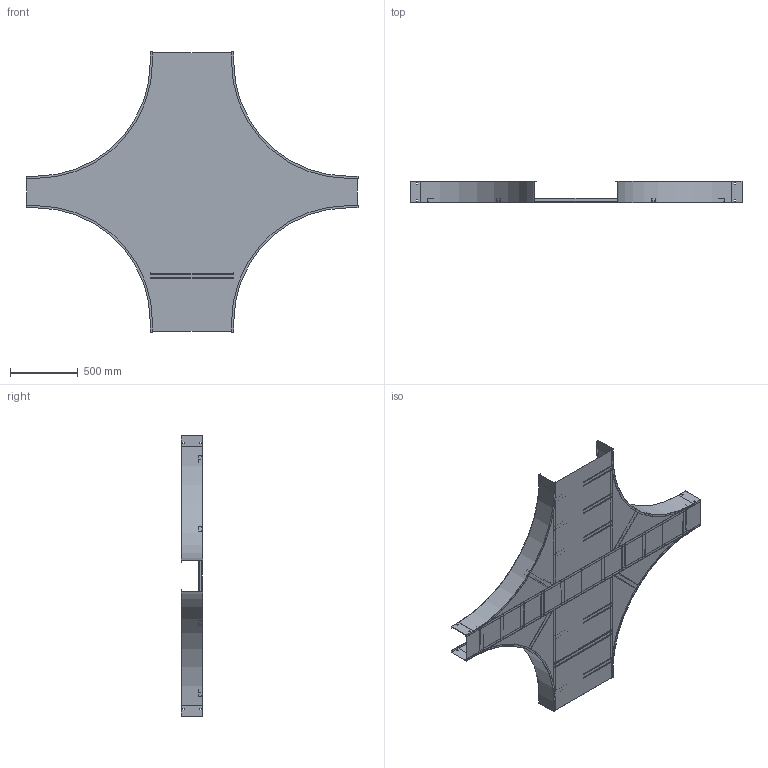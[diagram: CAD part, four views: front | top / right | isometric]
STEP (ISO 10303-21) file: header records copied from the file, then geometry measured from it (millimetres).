
FILE_DESCRIPTION((''),'2;1');
FILE_NAME('AUF60924SEX36_ASM','2010-02-01T',('erouzier'),(''),'PRO/ENGINEER BY PARAMETRIC TECHNOLOGY CORPORATION, 2008510','PRO/ENGINEER BY PARAMETRIC TECHNOLOGY CORPORATION, 2008510','');
FILE_SCHEMA(('CONFIG_CONTROL_DESIGN'));
Length unit declared in the file: inch
Products named in the file (25): CDS001321-6-90-33-I; CDS002159L9_AF11; CDS002159L9_AF12; CDS002159L9_AF13; CDS002159L9_AF14; CDS002159L9_AF20; CDS002159L9_AF15; CDS002159L9_AF16; CDS002159L9_AF17; CDS002159L9_AF19; CDS002159L9_AF21; CDS002159L9_AF18; CDS000495_GEN_AF18; CDS000495_GEN_AF19; CDS000495_GEN_AF22; CDS000495_GEN_AF23; CDS000495_GEN_AF20; CDS000495_GEN_AF21; CDS002159L18_AF6; CDS002159L18_AF7; CDS002159L18_AF4; CDS002159L18_AF5; CDS002159L24; CDS005034-9-36-24; AUF60924SEX36_ASM
Assembly tree (32 placements, depth 2):
  AUF60924SEX36_ASM
    CDS001321-6-90-33-I  x4
    CDS002159L9_AF11
    CDS002159L9_AF12
    CDS002159L9_AF13
    CDS002159L9_AF14
    CDS002159L9_AF20
    CDS002159L9_AF15
    CDS002159L9_AF16
    CDS002159L9_AF17
    CDS002159L9_AF19
    CDS002159L9_AF21
    CDS002159L9_AF18
    CDS000495_GEN_AF18
    CDS000495_GEN_AF19
    CDS000495_GEN_AF22
    CDS000495_GEN_AF23
    CDS000495_GEN_AF20
    CDS000495_GEN_AF21
    CDS002159L18_AF6
    CDS002159L18_AF7
    CDS002159L18_AF4
    CDS002159L18_AF5
    CDS002159L24  x6
    CDS005034-9-36-24
Bounding box: 2443.23 x 157.23 x 2062.23 mm (x, y, z)
Volume: 7178614.3 mm3; surface area: 9515875.6 mm2
Topology: 32 solids, 32 shells, 844 faces, 2340 edges, 1560 vertices
Faces by surface type: plane 593, cylinder 251
Entity records: 19685 total; most frequent: CARTESIAN_POINT 3713, ORIENTED_EDGE 3264, DIRECTION 3210, EDGE_CURVE 1632, VECTOR 1264, LINE 1264, VERTEX_POINT 1088, AXIS2_PLACEMENT_3D 973
